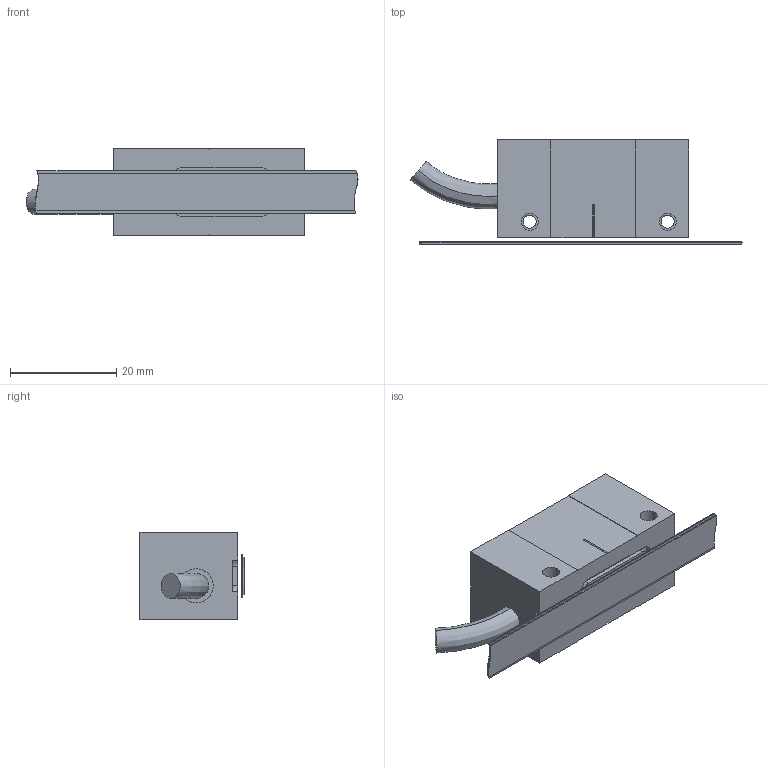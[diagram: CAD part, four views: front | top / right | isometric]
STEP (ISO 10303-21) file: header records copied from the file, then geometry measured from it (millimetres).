
FILE_DESCRIPTION (( 'STEP AP214' ), '1' );
FILE_NAME ('绝对值直线栅尺组合.STEP', '2021-08-25T00:30:42', ( '' ), ( '' ), 'SwSTEP 2.0', 'SolidWorks 2016', '' );
FILE_SCHEMA (( 'AUTOMOTIVE_DESIGN' ));
Length unit declared in the file: millimetre
Products named in the file (3): 橈勤硉掑喜8; 橈勤硉俋倛; 绝对值直线栅尺组合
Assembly tree (2 placements, depth 2):
  绝对值直线栅尺组合
    橈勤硉俋倛
    橈勤硉掑喜8
Bounding box: 62.55 x 19.6 x 16.5 mm (x, y, z)
Volume: 10662.5 mm3; surface area: 7513.9 mm2
Topology: 7 solids, 7 shells, 268 faces, 892 edges, 792 vertices
Faces by surface type: plane 214, cylinder 44, bspline 6, cone 4
Entity records: 10973 total; most frequent: CARTESIAN_POINT 2355, ORIENTED_EDGE 1776, DIRECTION 1500, EDGE_CURVE 888, VERTEX_POINT 792, VECTOR 778, LINE 778, EDGE_LOOP 434
